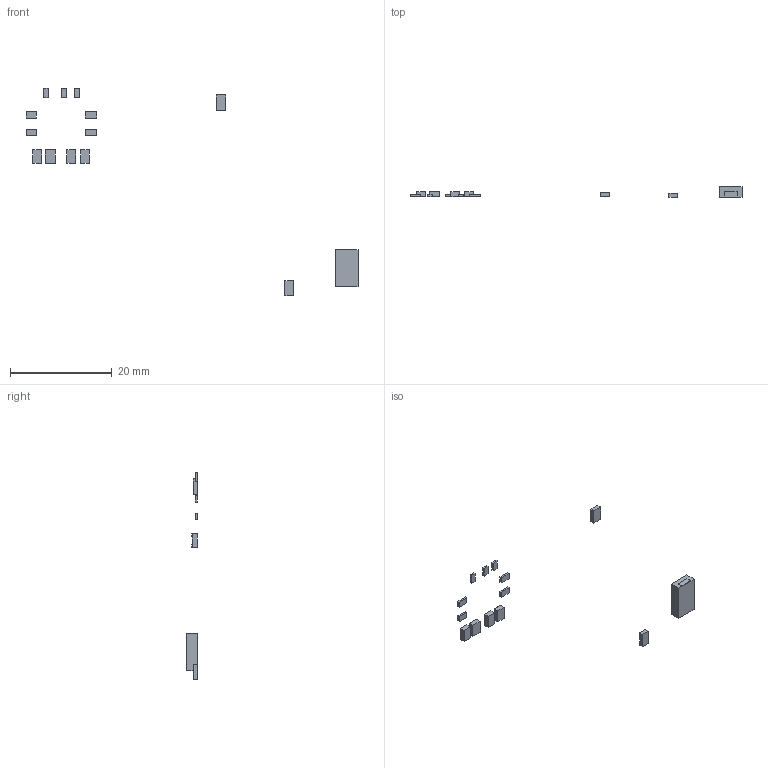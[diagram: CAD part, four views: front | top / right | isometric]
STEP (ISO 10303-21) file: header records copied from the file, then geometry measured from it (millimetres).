
FILE_DESCRIPTION(('Open CASCADE Model'),'2;1');
FILE_NAME('Open CASCADE Shape Model','2026-08-18T10:55:12',('Author'),( 'Open CASCADE'),'Open CASCADE STEP processor 7.9','Open CASCADE 7.9' ,'Unknown');
FILE_SCHEMA(('AUTOMOTIVE_DESIGN { 1 0 10303 214 1 1 1 1 }'));
Length unit declared in the file: millimetre
Products named in the file (1): misc_small_components
Bounding box: 65.38 x 2 x 40.93 mm (x, y, z)
Volume: 98.8 mm3; surface area: 293.4 mm2
Topology: 23 solids, 23 shells, 138 faces, 276 edges, 184 vertices
Faces by surface type: plane 138
Entity records: 7054 total; most frequent: CARTESIAN_POINT 1151, DIRECTION 1106, LINE 828, VECTOR 828, ORIENTED_EDGE 552, PCURVE 552, DEFINITIONAL_REPRESENTATION 552, EDGE_CURVE 276
